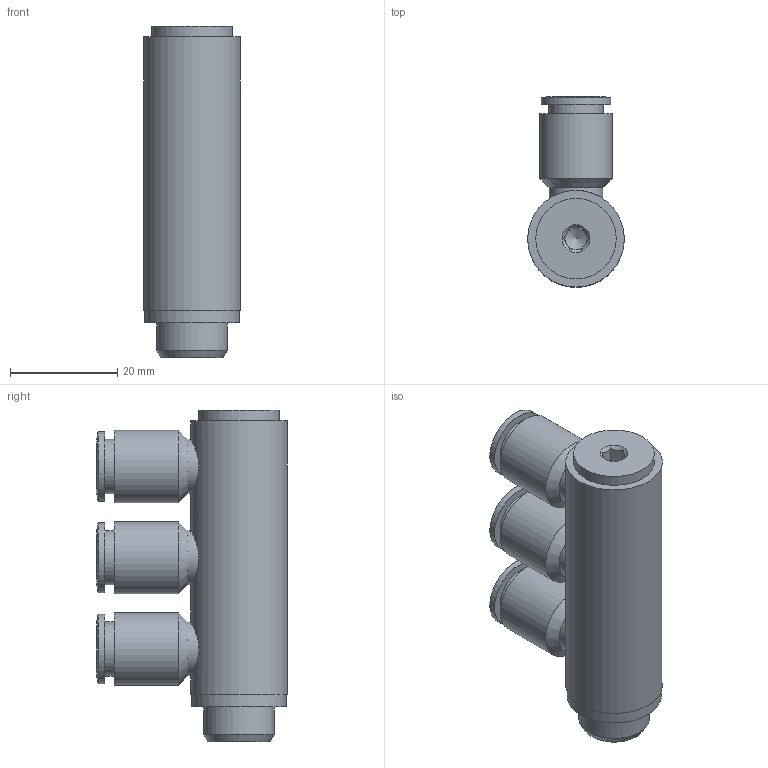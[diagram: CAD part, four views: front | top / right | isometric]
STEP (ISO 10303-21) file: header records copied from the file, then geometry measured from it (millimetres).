
FILE_DESCRIPTION((''),'2;1');
FILE_NAME('C:\Documents and Settings\rivolro1\Documenti\copia di Raccordi\PLASTICA\T34XXXX\T340814.stp','2007-11-03T09:17:18',('Rivolro1'),(''),'Autodesk Inventor 2008','Autodesk Inventor 2008','');
FILE_SCHEMA(('AUTOMOTIVE_DESIGN { 1 0 10303 214 1 1 1 1 }'));
Length unit declared in the file: millimetre
Products named in the file (1): T340814
Bounding box: 18 x 35.5 x 61.8 mm (x, y, z)
Volume: 17949.9 mm3; surface area: 8550 mm2
Topology: 1 solids, 1 shells, 64 faces, 124 edges, 80 vertices
Faces by surface type: plane 26, cylinder 16, bspline 15, cone 7
Full cylindrical faces by diameter (mm): 10 x3, 10.1 x3, 13 x3, 13.2 x1, 13.5 x3, 15 x1, 17.6 x1, 18 x1
Entity records: 1823 total; most frequent: CARTESIAN_POINT 636, DIRECTION 224, ORIENTED_EDGE 172, EDGE_LOOP 114, AXIS2_PLACEMENT_3D 103, EDGE_CURVE 86, VERTEX_POINT 74, FACE_OUTER_BOUND 64
